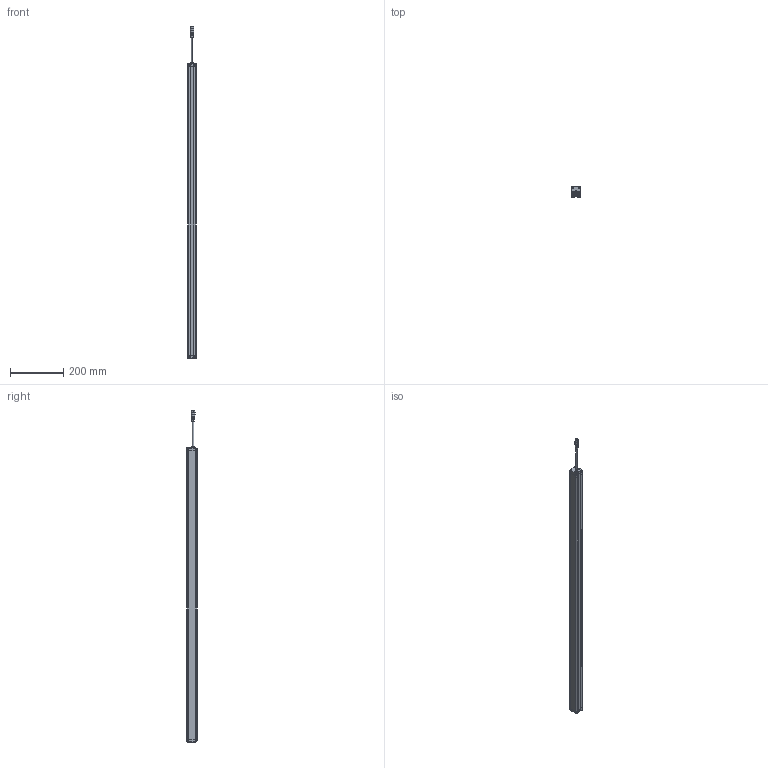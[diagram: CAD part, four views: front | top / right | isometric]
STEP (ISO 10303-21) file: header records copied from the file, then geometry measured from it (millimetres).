
FILE_DESCRIPTION((''),'2;1');
FILE_NAME('PRT0027','2026-03-31T13:14:21',('Administrator'),(''),'CREO PARAMETRIC BY PTC INC, 2016510','CREO PARAMETRIC BY PTC INC, 2016510','');
FILE_SCHEMA(('AUTOMOTIVE_DESIGN { 1 0 10303 214 1 1 1 1 }'));
Length unit declared in the file: millimetre
Products named in the file (1): PRT0027
Bounding box: 33 x 38 x 1241.9 mm (x, y, z)
Surface area: 242710.2 mm2 (no closed solid volume)
Topology: 0 solids, 12 shells, 815 faces, 2160 edges, 1365 vertices
Faces by surface type: plane 384, cylinder 235, extrusion 88, sphere 40, torus 36, cone 28, bspline 4
Entity records: 32086 total; most frequent: CARTESIAN_POINT 6066, ORIENTED_EDGE 4218, DIRECTION 3989, EDGE_CURVE 2109, VERTEX_POINT 1365, AXIS2_PLACEMENT_3D 1357, VECTOR 1275, LINE 1187
